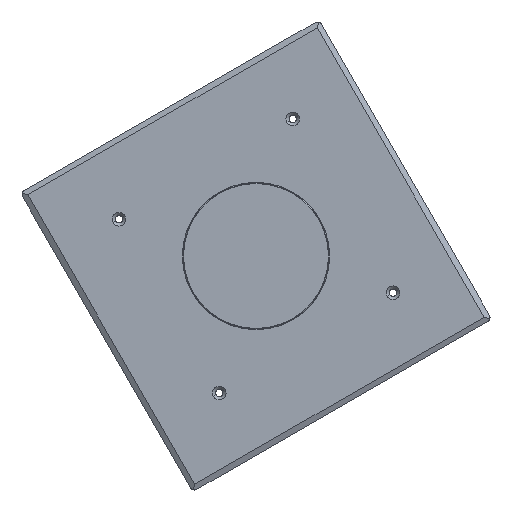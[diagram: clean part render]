
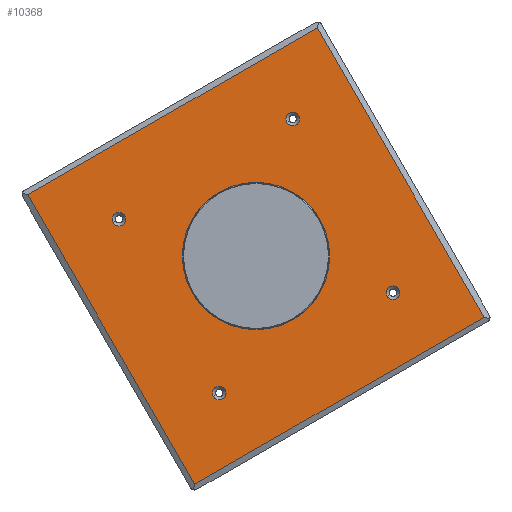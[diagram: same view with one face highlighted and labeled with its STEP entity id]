
A CAD part, left-side view. The second image highlights one B-rep face of the part: STEP entity #10368.
In plain terms, the highlighted planar face has unit normal (-1, 0, 0) as drawn and (0, -1, 0) by its records, which use the part's own axes.
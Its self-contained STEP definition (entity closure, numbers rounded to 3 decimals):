
#131 = CARTESIAN_POINT ( 'NONE',  ( 0., 0., 0. ) ) ;
#415 = CARTESIAN_POINT ( 'NONE',  ( 62.933, 0., 62.933 ) ) ;
#560 = VECTOR ( 'NONE', #584, 1000. ) ;
#584 = DIRECTION ( 'NONE',  ( -1., 0., 0. ) ) ;
#635 = FACE_BOUND ( 'NONE', #15102, .T. ) ;
#884 = VERTEX_POINT ( 'NONE', #19273 ) ;
#937 = CARTESIAN_POINT ( 'NONE',  ( 104.786, 0., -104.786 ) ) ;
#1117 = LINE ( 'NONE', #2681, #34560 ) ;
#1350 = EDGE_LOOP ( 'NONE', ( #9030, #17650 ) ) ;
#2077 = DIRECTION ( 'NONE',  ( 0., 0., -1. ) ) ;
#2562 = VERTEX_POINT ( 'NONE', #16353 ) ;
#2681 = CARTESIAN_POINT ( 'NONE',  ( 46.25, 0., -104.786 ) ) ;
#2908 = DIRECTION ( 'NONE',  ( 1., 0., 0. ) ) ;
#3541 = DIRECTION ( 'NONE',  ( 0., 1., 0. ) ) ;
#3564 = ORIENTED_EDGE ( 'NONE', *, *, #24952, .T. ) ;
#3592 = EDGE_CURVE ( 'NONE', #20791, #25510, #12109, .T. ) ;
#4552 = VERTEX_POINT ( 'NONE', #5584 ) ;
#4724 = EDGE_CURVE ( 'NONE', #11718, #14511, #16277, .T. ) ;
#4766 = LINE ( 'NONE', #13945, #29445 ) ;
#4924 = AXIS2_PLACEMENT_3D ( 'NONE', #10370, #29879, #16575 ) ;
#4936 = CARTESIAN_POINT ( 'NONE',  ( 62.933, 0., -58.683 ) ) ;
#5584 = CARTESIAN_POINT ( 'NONE',  ( -62.933, 0., 58.683 ) ) ;
#5715 = DIRECTION ( 'NONE',  ( 0., -1., 0. ) ) ;
#5854 = DIRECTION ( 'NONE',  ( 0., 1., 0. ) ) ;
#6433 = CIRCLE ( 'NONE', #34454, 4.25 ) ;
#7015 = AXIS2_PLACEMENT_3D ( 'NONE', #19079, #5854, #33311 ) ;
#7082 = CARTESIAN_POINT ( 'NONE',  ( -104.786, 0., -104.786 ) ) ;
#7337 = CARTESIAN_POINT ( 'NONE',  ( 0., 0., -46.25 ) ) ;
#7430 = VERTEX_POINT ( 'NONE', #24435 ) ;
#7718 = FACE_OUTER_BOUND ( 'NONE', #23981, .T. ) ;
#7813 = EDGE_CURVE ( 'NONE', #884, #10336, #4766, .T. ) ;
#8279 = DIRECTION ( 'NONE',  ( 0., 1., 0. ) ) ;
#8563 = AXIS2_PLACEMENT_3D ( 'NONE', #17941, #23277, #2077 ) ;
#8592 = ORIENTED_EDGE ( 'NONE', *, *, #4724, .F. ) ;
#8947 = VERTEX_POINT ( 'NONE', #937 ) ;
#9030 = ORIENTED_EDGE ( 'NONE', *, *, #14653, .T. ) ;
#9558 = AXIS2_PLACEMENT_3D ( 'NONE', #415, #21377, #21852 ) ;
#10204 = CIRCLE ( 'NONE', #23665, 46.25 ) ;
#10212 = LINE ( 'NONE', #13590, #560 ) ;
#10336 = VERTEX_POINT ( 'NONE', #7082 ) ;
#10368 = ADVANCED_FACE ( 'NONE', ( #7718, #635, #22816, #24873, #28232, #10697 ), #31501, .T. ) ;
#10370 = CARTESIAN_POINT ( 'NONE',  ( 62.933, 0., -62.933 ) ) ;
#10697 = FACE_BOUND ( 'NONE', #33385, .T. ) ;
#11374 = EDGE_CURVE ( 'NONE', #25510, #20791, #6433, .T. ) ;
#11718 = VERTEX_POINT ( 'NONE', #28266 ) ;
#11927 = CIRCLE ( 'NONE', #32842, 4.25 ) ;
#12109 = CIRCLE ( 'NONE', #4924, 4.25 ) ;
#12323 = VERTEX_POINT ( 'NONE', #20307 ) ;
#12584 = EDGE_CURVE ( 'NONE', #8947, #12323, #29705, .T. ) ;
#12689 = ORIENTED_EDGE ( 'NONE', *, *, #12584, .T. ) ;
#13060 = DIRECTION ( 'NONE',  ( 0., -1., 0. ) ) ;
#13172 = EDGE_CURVE ( 'NONE', #32830, #4552, #22195, .T. ) ;
#13462 = DIRECTION ( 'NONE',  ( 0., 0., -1. ) ) ;
#13590 = CARTESIAN_POINT ( 'NONE',  ( 46.25, 0., 104.786 ) ) ;
#13882 = ORIENTED_EDGE ( 'NONE', *, *, #14108, .T. ) ;
#13945 = CARTESIAN_POINT ( 'NONE',  ( -104.786, 0., 0. ) ) ;
#13999 = CARTESIAN_POINT ( 'NONE',  ( -62.933, 0., 67.183 ) ) ;
#14068 = CARTESIAN_POINT ( 'NONE',  ( 62.933, 0., -62.933 ) ) ;
#14108 = EDGE_CURVE ( 'NONE', #10336, #8947, #1117, .T. ) ;
#14310 = CIRCLE ( 'NONE', #20428, 4.25 ) ;
#14511 = VERTEX_POINT ( 'NONE', #7337 ) ;
#14653 = EDGE_CURVE ( 'NONE', #17251, #28701, #31994, .T. ) ;
#14988 = EDGE_LOOP ( 'NONE', ( #22402, #32482 ) ) ;
#15100 = CIRCLE ( 'NONE', #31909, 4.25 ) ;
#15102 = EDGE_LOOP ( 'NONE', ( #19190, #3564 ) ) ;
#15798 = CIRCLE ( 'NONE', #8563, 4.25 ) ;
#15963 = DIRECTION ( 'NONE',  ( 0., 1., 0. ) ) ;
#16277 = CIRCLE ( 'NONE', #25523, 46.25 ) ;
#16353 = CARTESIAN_POINT ( 'NONE',  ( -62.933, 0., -67.183 ) ) ;
#16575 = DIRECTION ( 'NONE',  ( 0., 0., -1. ) ) ;
#16647 = DIRECTION ( 'NONE',  ( 0., 0., 1. ) ) ;
#16789 = VECTOR ( 'NONE', #16647, 1000. ) ;
#17233 = CARTESIAN_POINT ( 'NONE',  ( 62.933, 0., 67.183 ) ) ;
#17251 = VERTEX_POINT ( 'NONE', #26033 ) ;
#17650 = ORIENTED_EDGE ( 'NONE', *, *, #20637, .T. ) ;
#17941 = CARTESIAN_POINT ( 'NONE',  ( 62.933, 0., 62.933 ) ) ;
#18345 = CARTESIAN_POINT ( 'NONE',  ( 46.25, 0., 0. ) ) ;
#18497 = ORIENTED_EDGE ( 'NONE', *, *, #25621, .T. ) ;
#19079 = CARTESIAN_POINT ( 'NONE',  ( -62.933, 0., 62.933 ) ) ;
#19190 = ORIENTED_EDGE ( 'NONE', *, *, #32113, .T. ) ;
#19273 = CARTESIAN_POINT ( 'NONE',  ( -104.786, 0., 104.786 ) ) ;
#19985 = ORIENTED_EDGE ( 'NONE', *, *, #28700, .T. ) ;
#20307 = CARTESIAN_POINT ( 'NONE',  ( 104.786, 0., 104.786 ) ) ;
#20428 = AXIS2_PLACEMENT_3D ( 'NONE', #27744, #3541, #33229 ) ;
#20637 = EDGE_CURVE ( 'NONE', #28701, #17251, #15798, .T. ) ;
#20791 = VERTEX_POINT ( 'NONE', #4936 ) ;
#20945 = DIRECTION ( 'NONE',  ( 0., -1., 0. ) ) ;
#21377 = DIRECTION ( 'NONE',  ( 0., 1., 0. ) ) ;
#21711 = CARTESIAN_POINT ( 'NONE',  ( 0., 0., 0. ) ) ;
#21852 = DIRECTION ( 'NONE',  ( 0., 0., -1. ) ) ;
#22195 = CIRCLE ( 'NONE', #7015, 4.25 ) ;
#22402 = ORIENTED_EDGE ( 'NONE', *, *, #11374, .T. ) ;
#22816 = FACE_BOUND ( 'NONE', #1350, .T. ) ;
#23277 = DIRECTION ( 'NONE',  ( 0., 1., 0. ) ) ;
#23665 = AXIS2_PLACEMENT_3D ( 'NONE', #131, #20945, #29224 ) ;
#23760 = CARTESIAN_POINT ( 'NONE',  ( -62.933, 0., -62.933 ) ) ;
#23888 = AXIS2_PLACEMENT_3D ( 'NONE', #18345, #13060, #34442 ) ;
#23981 = EDGE_LOOP ( 'NONE', ( #12689, #18497, #24811, #13882 ) ) ;
#24435 = CARTESIAN_POINT ( 'NONE',  ( -62.933, 0., -58.683 ) ) ;
#24811 = ORIENTED_EDGE ( 'NONE', *, *, #7813, .T. ) ;
#24873 = FACE_BOUND ( 'NONE', #14988, .T. ) ;
#24952 = EDGE_CURVE ( 'NONE', #7430, #2562, #11927, .T. ) ;
#25510 = VERTEX_POINT ( 'NONE', #26738 ) ;
#25523 = AXIS2_PLACEMENT_3D ( 'NONE', #21711, #5715, #32546 ) ;
#25621 = EDGE_CURVE ( 'NONE', #12323, #884, #10212, .T. ) ;
#26033 = CARTESIAN_POINT ( 'NONE',  ( 62.933, 0., 58.683 ) ) ;
#26738 = CARTESIAN_POINT ( 'NONE',  ( 62.933, 0., -67.183 ) ) ;
#27033 = CARTESIAN_POINT ( 'NONE',  ( 104.786, 0., 0. ) ) ;
#27744 = CARTESIAN_POINT ( 'NONE',  ( -62.933, 0., 62.933 ) ) ;
#28232 = FACE_BOUND ( 'NONE', #30543, .T. ) ;
#28266 = CARTESIAN_POINT ( 'NONE',  ( 0., 0., 46.25 ) ) ;
#28700 = EDGE_CURVE ( 'NONE', #4552, #32830, #14310, .T. ) ;
#28701 = VERTEX_POINT ( 'NONE', #17233 ) ;
#28864 = DIRECTION ( 'NONE',  ( 0., 1., 0. ) ) ;
#29224 = DIRECTION ( 'NONE',  ( 0., 0., -1. ) ) ;
#29445 = VECTOR ( 'NONE', #29677, 1000. ) ;
#29625 = ORIENTED_EDGE ( 'NONE', *, *, #34492, .F. ) ;
#29677 = DIRECTION ( 'NONE',  ( 0., 0., -1. ) ) ;
#29705 = LINE ( 'NONE', #27033, #16789 ) ;
#29879 = DIRECTION ( 'NONE',  ( 0., 1., 0. ) ) ;
#30543 = EDGE_LOOP ( 'NONE', ( #19985, #32677 ) ) ;
#31501 = PLANE ( 'NONE',  #23888 ) ;
#31909 = AXIS2_PLACEMENT_3D ( 'NONE', #34148, #28864, #13462 ) ;
#31994 = CIRCLE ( 'NONE', #9558, 4.25 ) ;
#32113 = EDGE_CURVE ( 'NONE', #2562, #7430, #15100, .T. ) ;
#32371 = DIRECTION ( 'NONE',  ( 0., 0., -1. ) ) ;
#32482 = ORIENTED_EDGE ( 'NONE', *, *, #3592, .T. ) ;
#32546 = DIRECTION ( 'NONE',  ( 0., 0., -1. ) ) ;
#32677 = ORIENTED_EDGE ( 'NONE', *, *, #13172, .T. ) ;
#32830 = VERTEX_POINT ( 'NONE', #13999 ) ;
#32842 = AXIS2_PLACEMENT_3D ( 'NONE', #23760, #15963, #34544 ) ;
#33229 = DIRECTION ( 'NONE',  ( 0., 0., -1. ) ) ;
#33311 = DIRECTION ( 'NONE',  ( 0., 0., -1. ) ) ;
#33385 = EDGE_LOOP ( 'NONE', ( #29625, #8592 ) ) ;
#34148 = CARTESIAN_POINT ( 'NONE',  ( -62.933, 0., -62.933 ) ) ;
#34442 = DIRECTION ( 'NONE',  ( 0., 0., -1. ) ) ;
#34454 = AXIS2_PLACEMENT_3D ( 'NONE', #14068, #8279, #32371 ) ;
#34492 = EDGE_CURVE ( 'NONE', #14511, #11718, #10204, .T. ) ;
#34544 = DIRECTION ( 'NONE',  ( 0., 0., -1. ) ) ;
#34560 = VECTOR ( 'NONE', #2908, 1000. ) ;
